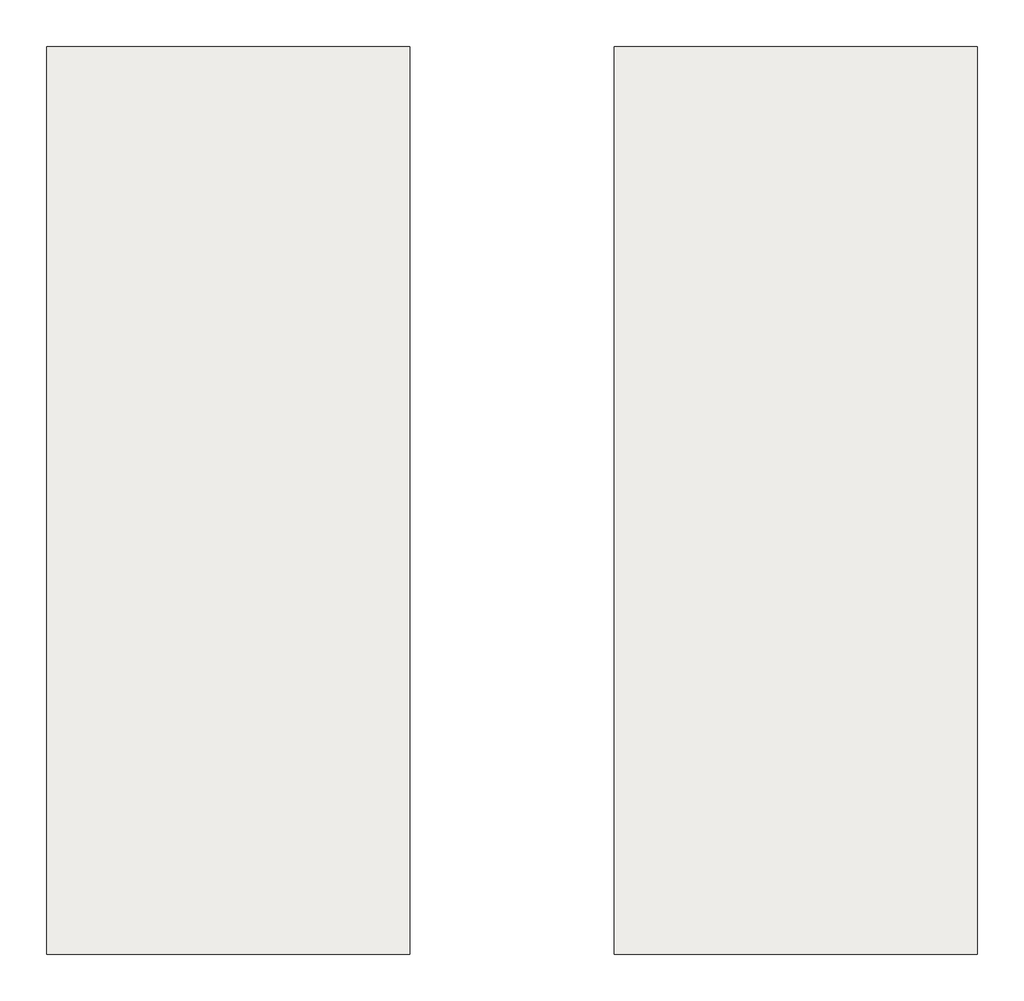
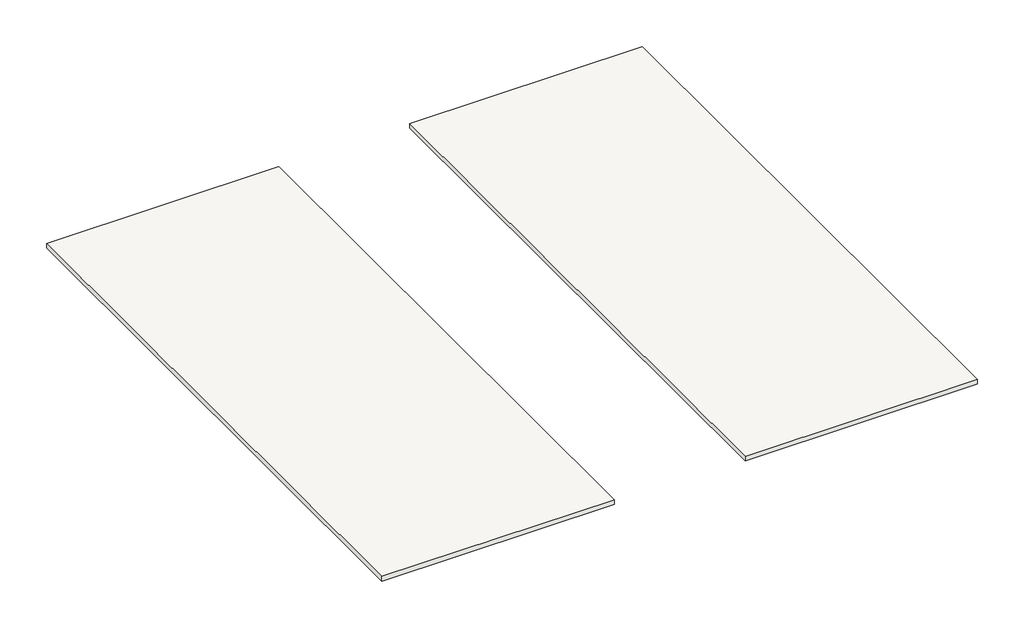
# One storey: 2 roofs.
"""IFC4 building model written with IfcOpenShell, lengths in millimetres."""

from ifc_helpers import new_model, si_unit, frame, origin, place, context, project, spatial, polyline, outline, extrude, element, save

model = new_model("IFC4")

# Units and contexts
model_context = context("Model", 3, world=origin())
ifc_project = project(units=[si_unit("LENGTHUNIT", "METRE", prefix="MILLI")], contexts=[model_context])

# Site, building, storey
site = spatial("IfcSite", under=ifc_project)
building = spatial("IfcBuilding", under=site)
storey = spatial("IfcBuildingStorey", under=building, Name="RENDERED VIEW", Elevation=3048.0)

# Roofs
placement = place(None, origin())
element("IfcRoof", 1, ObjectType="Field Lok FLR154", at=placement, inside=storey, context=model_context, shape_type="SweptSolid", body=[
    extrude(outline(polyline([(-54112.7382533, 26604.8089762), (-51674.3382533, 26604.8089762), (-51674.3382533, 20508.8089762), (-54112.7382533, 20508.8089762), (-54112.7382533, 26604.8089762)])), frame((0.0, 0.0, 3048.0), z_axis=(0.0, 0.0, 1.0), x_axis=(1.0, 0.0, 0.0)), (0.0, 0.0, 1.0), 50.8),
])
element("IfcRoof", 2, ObjectType="Field Lok FLR195", at=placement, inside=storey, context=model_context, shape_type="SweptSolid", body=[
    extrude(outline(polyline([(-50302.7382533, 26604.8089762), (-47864.3382533, 26604.8089762), (-47864.3382533, 20508.8089762), (-50302.7382533, 20508.8089762), (-50302.7382533, 26604.8089762)])), frame((0.0, 0.0, 3048.0), z_axis=(0.0, 0.0, 1.0), x_axis=(1.0, 0.0, 0.0)), (0.0, 0.0, 1.0), 50.8),
])

save(model, "model.ifc")
